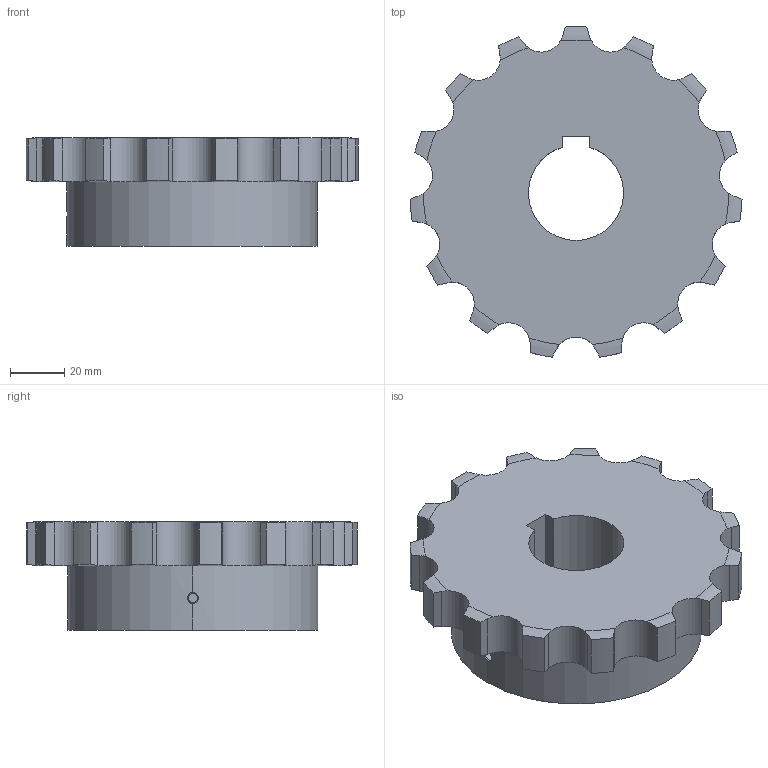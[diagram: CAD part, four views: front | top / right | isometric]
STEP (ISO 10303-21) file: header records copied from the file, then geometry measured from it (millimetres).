
FILE_DESCRIPTION((''),'2;1');
FILE_NAME('510-501-3515_PRT','2021-02-13T',('Brieden'),('Brieden'),'PRO/ENGINEER BY PARAMETRIC TECHNOLOGY CORPORATION, 2010160','PRO/ENGINEER BY PARAMETRIC TECHNOLOGY CORPORATION, 2010160','');
FILE_SCHEMA(('AUTOMOTIVE_DESIGN { 1 0 10303 214 1 1 1 1 }'));
Length unit declared in the file: millimetre
Products named in the file (1): 510-501-3515_PRT
Bounding box: 122.08 x 121.53 x 40 mm (x, y, z)
Volume: 283548.3 mm3; surface area: 38075.7 mm2
Topology: 1 solids, 1 shells, 111 faces, 315 edges, 208 vertices
Faces by surface type: cylinder 67, torus 30, plane 8, bspline 6
Entity records: 5406 total; most frequent: CARTESIAN_POINT 1685, ORIENTED_EDGE 630, DIRECTION 493, PRESENTATION_STYLE_ASSIGNMENT 316, STYLED_ITEM 316, CURVE_STYLE 315, EDGE_CURVE 315, VERTEX_POINT 208
